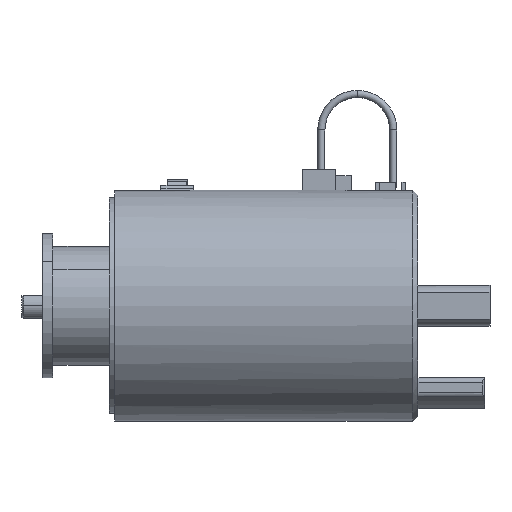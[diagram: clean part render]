
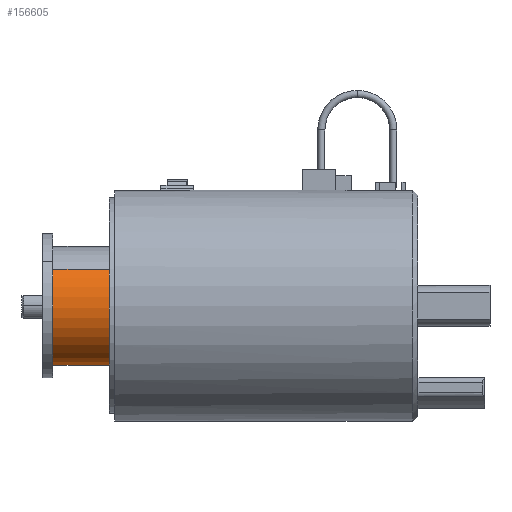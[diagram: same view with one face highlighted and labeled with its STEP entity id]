
A CAD part, front view. The second image highlights one B-rep face of the part: STEP entity #156605.
In plain terms, the highlighted cylindrical face has radius 11.555 mm (diameter 23.11 mm), a partial arc.
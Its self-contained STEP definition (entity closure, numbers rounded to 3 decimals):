
#156350 = PLANE('',#156351);
#156351 = AXIS2_PLACEMENT_3D('',#156352,#156353,#156354);
#156352 = CARTESIAN_POINT('',(0.,0.,0.));
#156353 = DIRECTION('',(0.,0.,-1.));
#156354 = DIRECTION('',(-1.,0.,-0.));
#156462 = PLANE('',#156463);
#156463 = AXIS2_PLACEMENT_3D('',#156464,#156465,#156466);
#156464 = CARTESIAN_POINT('',(0.,0.,11.));
#156465 = DIRECTION('',(0.,0.,1.));
#156466 = DIRECTION('',(1.,0.,-0.));
#156499 = VERTEX_POINT('',#156500);
#156500 = CARTESIAN_POINT('',(11.555,0.,11.));
#156501 = VERTEX_POINT('',#156502);
#156502 = CARTESIAN_POINT('',(-11.555,0.,11.));
#156510 = CYLINDRICAL_SURFACE('',#156511,11.555);
#156511 = AXIS2_PLACEMENT_3D('',#156512,#156513,#156514);
#156512 = CARTESIAN_POINT('',(0.,0.,11.));
#156513 = DIRECTION('',(-0.,-0.,-1.));
#156514 = DIRECTION('',(-1.,0.,0.));
#156529 = EDGE_CURVE('',#156499,#156530,#156532,.T.);
#156530 = VERTEX_POINT('',#156531);
#156531 = CARTESIAN_POINT('',(11.555,0.,0.));
#156532 = SURFACE_CURVE('',#156533,(#156537,#156544),.PCURVE_S1.);
#156533 = LINE('',#156534,#156535);
#156534 = CARTESIAN_POINT('',(11.555,0.,11.));
#156535 = VECTOR('',#156536,1.);
#156536 = DIRECTION('',(-0.,-0.,-1.));
#156537 = PCURVE('',#156510,#156538);
#156538 = DEFINITIONAL_REPRESENTATION('',(#156539),#156543);
#156539 = LINE('',#156540,#156541);
#156540 = CARTESIAN_POINT('',(3.142,0.));
#156541 = VECTOR('',#156542,1.);
#156542 = DIRECTION('',(0.,1.));
#156543 = ( GEOMETRIC_REPRESENTATION_CONTEXT(2) 
PARAMETRIC_REPRESENTATION_CONTEXT() REPRESENTATION_CONTEXT('2D SPACE',''
  ) );
#156544 = PCURVE('',#156545,#156550);
#156545 = CYLINDRICAL_SURFACE('',#156546,11.555);
#156546 = AXIS2_PLACEMENT_3D('',#156547,#156548,#156549);
#156547 = CARTESIAN_POINT('',(0.,0.,11.));
#156548 = DIRECTION('',(-0.,-0.,-1.));
#156549 = DIRECTION('',(-1.,0.,0.));
#156550 = DEFINITIONAL_REPRESENTATION('',(#156551),#156555);
#156551 = LINE('',#156552,#156553);
#156552 = CARTESIAN_POINT('',(3.142,0.));
#156553 = VECTOR('',#156554,1.);
#156554 = DIRECTION('',(0.,1.));
#156555 = ( GEOMETRIC_REPRESENTATION_CONTEXT(2) 
PARAMETRIC_REPRESENTATION_CONTEXT() REPRESENTATION_CONTEXT('2D SPACE',''
  ) );
#156558 = VERTEX_POINT('',#156559);
#156559 = CARTESIAN_POINT('',(-11.555,0.,0.));
#156585 = EDGE_CURVE('',#156501,#156558,#156586,.T.);
#156586 = SURFACE_CURVE('',#156587,(#156591,#156598),.PCURVE_S1.);
#156587 = LINE('',#156588,#156589);
#156588 = CARTESIAN_POINT('',(-11.555,0.,11.));
#156589 = VECTOR('',#156590,1.);
#156590 = DIRECTION('',(-0.,-0.,-1.));
#156591 = PCURVE('',#156510,#156592);
#156592 = DEFINITIONAL_REPRESENTATION('',(#156593),#156597);
#156593 = LINE('',#156594,#156595);
#156594 = CARTESIAN_POINT('',(0.,0.));
#156595 = VECTOR('',#156596,1.);
#156596 = DIRECTION('',(0.,1.));
#156597 = ( GEOMETRIC_REPRESENTATION_CONTEXT(2) 
PARAMETRIC_REPRESENTATION_CONTEXT() REPRESENTATION_CONTEXT('2D SPACE',''
  ) );
#156598 = PCURVE('',#156545,#156599);
#156599 = DEFINITIONAL_REPRESENTATION('',(#156600),#156604);
#156600 = LINE('',#156601,#156602);
#156601 = CARTESIAN_POINT('',(6.283,0.));
#156602 = VECTOR('',#156603,1.);
#156603 = DIRECTION('',(0.,1.));
#156604 = ( GEOMETRIC_REPRESENTATION_CONTEXT(2) 
PARAMETRIC_REPRESENTATION_CONTEXT() REPRESENTATION_CONTEXT('2D SPACE',''
  ) );
#156605 = ADVANCED_FACE('',(#156606),#156545,.T.);
#156606 = FACE_BOUND('',#156607,.T.);
#156607 = EDGE_LOOP('',(#156608,#156609,#156631,#156632));
#156608 = ORIENTED_EDGE('',*,*,#156529,.F.);
#156609 = ORIENTED_EDGE('',*,*,#156610,.F.);
#156610 = EDGE_CURVE('',#156501,#156499,#156611,.T.);
#156611 = SURFACE_CURVE('',#156612,(#156617,#156624),.PCURVE_S1.);
#156612 = CIRCLE('',#156613,11.555);
#156613 = AXIS2_PLACEMENT_3D('',#156614,#156615,#156616);
#156614 = CARTESIAN_POINT('',(0.,0.,11.));
#156615 = DIRECTION('',(0.,0.,1.));
#156616 = DIRECTION('',(1.,0.,-0.));
#156617 = PCURVE('',#156545,#156618);
#156618 = DEFINITIONAL_REPRESENTATION('',(#156619),#156623);
#156619 = LINE('',#156620,#156621);
#156620 = CARTESIAN_POINT('',(9.425,0.));
#156621 = VECTOR('',#156622,1.);
#156622 = DIRECTION('',(-1.,0.));
#156623 = ( GEOMETRIC_REPRESENTATION_CONTEXT(2) 
PARAMETRIC_REPRESENTATION_CONTEXT() REPRESENTATION_CONTEXT('2D SPACE',''
  ) );
#156624 = PCURVE('',#156462,#156625);
#156625 = DEFINITIONAL_REPRESENTATION('',(#156626),#156630);
#156626 = CIRCLE('',#156627,11.555);
#156627 = AXIS2_PLACEMENT_2D('',#156628,#156629);
#156628 = CARTESIAN_POINT('',(0.,0.));
#156629 = DIRECTION('',(1.,0.));
#156630 = ( GEOMETRIC_REPRESENTATION_CONTEXT(2) 
PARAMETRIC_REPRESENTATION_CONTEXT() REPRESENTATION_CONTEXT('2D SPACE',''
  ) );
#156631 = ORIENTED_EDGE('',*,*,#156585,.T.);
#156632 = ORIENTED_EDGE('',*,*,#156633,.T.);
#156633 = EDGE_CURVE('',#156558,#156530,#156634,.T.);
#156634 = SURFACE_CURVE('',#156635,(#156640,#156647),.PCURVE_S1.);
#156635 = CIRCLE('',#156636,11.555);
#156636 = AXIS2_PLACEMENT_3D('',#156637,#156638,#156639);
#156637 = CARTESIAN_POINT('',(0.,0.,0.));
#156638 = DIRECTION('',(0.,0.,1.));
#156639 = DIRECTION('',(1.,0.,-0.));
#156640 = PCURVE('',#156545,#156641);
#156641 = DEFINITIONAL_REPRESENTATION('',(#156642),#156646);
#156642 = LINE('',#156643,#156644);
#156643 = CARTESIAN_POINT('',(9.425,11.));
#156644 = VECTOR('',#156645,1.);
#156645 = DIRECTION('',(-1.,0.));
#156646 = ( GEOMETRIC_REPRESENTATION_CONTEXT(2) 
PARAMETRIC_REPRESENTATION_CONTEXT() REPRESENTATION_CONTEXT('2D SPACE',''
  ) );
#156647 = PCURVE('',#156350,#156648);
#156648 = DEFINITIONAL_REPRESENTATION('',(#156649),#156657);
#156649 = ( BOUNDED_CURVE() B_SPLINE_CURVE(2,(#156650,#156651,#156652,
    #156653,#156654,#156655,#156656),.UNSPECIFIED.,.T.,.F.) 
B_SPLINE_CURVE_WITH_KNOTS((1,2,2,2,2,1),(-2.094,0.,
    2.094,4.189,6.283,8.378),
.UNSPECIFIED.) CURVE() GEOMETRIC_REPRESENTATION_ITEM() 
RATIONAL_B_SPLINE_CURVE((1.,0.5,1.,0.5,1.,0.5,1.)) REPRESENTATION_ITEM(
  '') );
#156650 = CARTESIAN_POINT('',(-11.555,0.));
#156651 = CARTESIAN_POINT('',(-11.555,20.014));
#156652 = CARTESIAN_POINT('',(5.778,10.007));
#156653 = CARTESIAN_POINT('',(23.11,0.));
#156654 = CARTESIAN_POINT('',(5.778,-10.007));
#156655 = CARTESIAN_POINT('',(-11.555,-20.014));
#156656 = CARTESIAN_POINT('',(-11.555,0.));
#156657 = ( GEOMETRIC_REPRESENTATION_CONTEXT(2) 
PARAMETRIC_REPRESENTATION_CONTEXT() REPRESENTATION_CONTEXT('2D SPACE',''
  ) );
